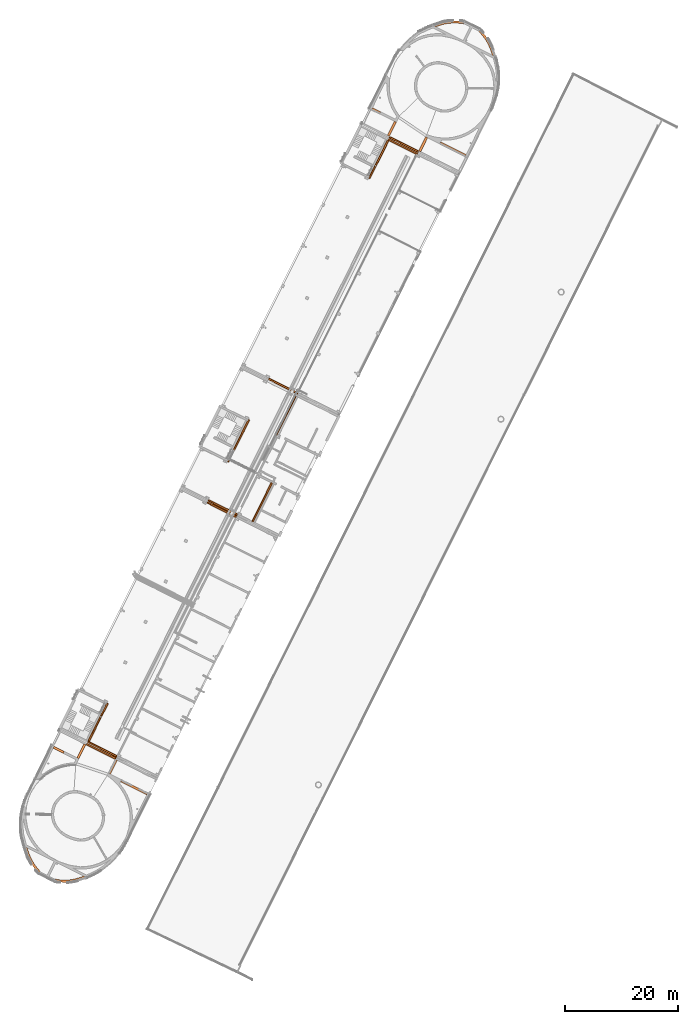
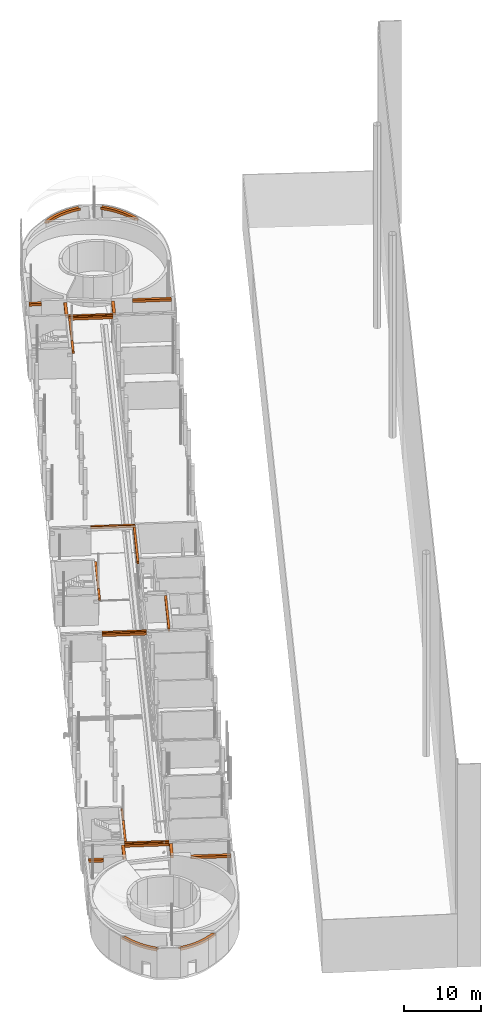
# One storey, part 90 of 91: 24 proxies.
"""IFC2X3 building model written with IfcOpenShell, lengths in metres."""

import ifcopenshell
import ifcopenshell.guid

model = None  # the IFC model being written
_history = None  # IfcOwnerHistory: only IFC2X3 demands one
_inside = {}  # id of a spatial element -> (the spatial element, [elements in it])
_under = {}  # id of a project, library or spatial element -> (it, [spatial elements below it])
_declared = {}  # id of a project -> (the project, [libraries it declares])
_typed = {}  # id of a type object -> (the type object, [elements of that type])
_made_of = {}  # id of a material, layer set ... -> (it, [elements and type objects made of it])


def new_model(schema):
    """Start an empty IFC model of exactly this schema.

    Asked for "IFC4X3", IfcOpenShell would pick the latest addendum, in which some entities
    have other attributes; the version numbers below select the first issue.
    IFC2X3 requires an IfcOwnerHistory on every rooted entity: one is made here for all.
    """
    global model, _history
    if schema == "IFC4X3":
        model = ifcopenshell.file(schema_version=(4, 3, 0, 0))
    else:
        model = ifcopenshell.file(schema=schema)
    _inside.clear()
    _under.clear()
    _declared.clear()
    _typed.clear()
    _made_of.clear()
    _history = None
    if model.schema == "IFC2X3":
        org = make("IfcOrganization", Name="unknown")
        user = make(
            "IfcPersonAndOrganization",
            ThePerson=make("IfcPerson", FamilyName="unknown"),
            TheOrganization=org,
        )
        app = make(
            "IfcApplication",
            ApplicationDeveloper=org,
            Version="unknown",
            ApplicationFullName="unknown",
            ApplicationIdentifier="unknown",
        )
        _history = make(
            "IfcOwnerHistory",
            OwningUser=user,
            OwningApplication=app,
            ChangeAction="ADDED",
            CreationDate=0,
        )
    return model


def make(cls, **values):
    """One entity of the class cls with the attributes given. An attribute that is None is left unset."""
    return model.create_entity(
        cls, **{name: value for name, value in values.items() if value is not None}
    )


def entity(cls, *values):
    """Any entity or typed value of the class cls, its attributes in the order of the schema. None: left unset."""
    e = model.create_entity(cls)
    for i, value in enumerate(values):
        if value is not None:
            e[i] = value
    return e


def rooted(cls, **values):
    """An entity with a GlobalId (a new one), such as an element, a storey or a relation."""
    return make(cls, GlobalId=ifcopenshell.guid.new(), OwnerHistory=_history, **values)


def si_unit(unit_type, name, prefix=None):
    """IfcSIUnit, for example si_unit("LENGTHUNIT", "METRE", prefix="MILLI")."""
    return make("IfcSIUnit", UnitType=unit_type, Prefix=prefix, Name=name)


def converted_unit(unit_type, name, factor, base, dimensions=None, offset=None):
    """IfcConversionBasedUnit, such as the inch: factor (a typed value) times the base unit."""
    return make(
        "IfcConversionBasedUnit"
        if offset is None
        else "IfcConversionBasedUnitWithOffset",
        ConversionOffset=offset,
        Dimensions=None
        if dimensions is None
        else entity("IfcDimensionalExponents", *dimensions),
        UnitType=unit_type,
        Name=name,
        ConversionFactor=make(
            "IfcMeasureWithUnit", ValueComponent=factor, UnitComponent=base
        ),
    )


def derived_unit(unit_type, elements):
    """IfcDerivedUnit: a product of units, each with its exponent."""
    return make(
        "IfcDerivedUnit",
        Elements=[
            make("IfcDerivedUnitElement", Unit=unit, Exponent=power)
            for unit, power in elements
        ],
        UnitType=unit_type,
    )


def assignment(units):
    """IfcUnitAssignment: the units of a project."""
    return None if units is None else make("IfcUnitAssignment", Units=units)


def point(xyz):
    """IfcCartesianPoint."""
    return None if xyz is None else make("IfcCartesianPoint", Coordinates=xyz)


def direction(xyz):
    """IfcDirection."""
    return None if xyz is None else make("IfcDirection", DirectionRatios=xyz)


def frame(location, z_axis=None, x_axis=None):
    """IfcAxis2Placement3D, a coordinate frame: its origin and axes. An axis left out is left unset."""
    return make(
        "IfcAxis2Placement3D",
        Location=point(location),
        Axis=direction(z_axis),
        RefDirection=direction(x_axis),
    )


def frame_2d(location, x_axis=None):
    """IfcAxis2Placement2D, a coordinate frame in the plane: its origin and x axis."""
    return make(
        "IfcAxis2Placement2D", Location=point(location), RefDirection=direction(x_axis)
    )


def origin():
    """The frame at (0, 0, 0) with its axes left unset."""
    return frame((0.0, 0.0, 0.0))


def origin_2d_with_axis():
    """The frame at (0, 0) in the plane with the x axis (1, 0) written out."""
    return frame_2d((0.0, 0.0), x_axis=(1.0, 0.0))


def place(relative_to, where):
    """IfcLocalPlacement: puts the frame where relative to a parent placement (None: the world)."""
    return make(
        "IfcLocalPlacement", PlacementRelTo=relative_to, RelativePlacement=where
    )


def context(
    kind, dimensions, precision=None, world=None, true_north=None, identifier=None
):
    """IfcGeometricRepresentationContext, for example the 3D "Model" context."""
    return make(
        "IfcGeometricRepresentationContext",
        ContextIdentifier=identifier,
        ContextType=kind,
        CoordinateSpaceDimension=dimensions,
        Precision=precision,
        WorldCoordinateSystem=world,
        TrueNorth=true_north,
    )


def subcontext(parent, identifier, kind, view, scale=None):
    """IfcGeometricRepresentationSubContext, for example "Body" below "Model"."""
    return make(
        "IfcGeometricRepresentationSubContext",
        ContextIdentifier=identifier,
        ContextType=kind,
        ParentContext=parent,
        TargetScale=scale,
        TargetView=view,
    )


def project(units=None, contexts=None):
    """IfcProject with its units and contexts."""
    return rooted(
        "IfcProject",
        Name="project",
        RepresentationContexts=contexts,
        UnitsInContext=assignment(units),
    )


def spatial(cls, under=None, at=None, **own):
    """A site, building, storey or space (cls), placed at a placement, below another one or the project."""
    s = rooted(cls, ObjectPlacement=at, **own)
    if under is not None:
        _under.setdefault(under.id(), (under, []))[1].append(s)
    return s


def polyline(points):
    """IfcPolyline through the points."""
    return make("IfcPolyline", Points=[point(p) for p in points])


def circle_curve(where, radius):
    """IfcCircle in the frame where."""
    return make("IfcCircle", Position=where, Radius=radius)


def parameter(value):
    """IfcParameterValue: where a trimmed curve begins or ends, as a parameter of its basis curve."""
    return model.create_entity("IfcParameterValue", value)


def trimmed(basis, trim1, trim2, sense, master):
    """IfcTrimmedCurve: the piece of a basis curve between two trims."""
    return make(
        "IfcTrimmedCurve",
        BasisCurve=basis,
        Trim1=trim1,
        Trim2=trim2,
        SenseAgreement=sense,
        MasterRepresentation=master,
    )


def segment(curve, same_sense, transition):
    """IfcCompositeCurveSegment."""
    return make(
        "IfcCompositeCurveSegment",
        Transition=transition,
        SameSense=same_sense,
        ParentCurve=curve,
    )


def composite_curve(segments, self_intersect=None):
    """IfcCompositeCurve: segments joined end to end."""
    return make("IfcCompositeCurve", Segments=segments, SelfIntersect=self_intersect)


def profile(cls, at=None, kind="AREA", **sizes):
    """A parametric profile (cls). Its sizes go by their IFC names, for example OverallWidth=200.0."""
    return make(cls, ProfileType=kind, Position=at, **sizes)


def rectangle(**sizes):
    """IfcRectangleProfileDef."""
    return profile("IfcRectangleProfileDef", **sizes)


def outline(outer, holes=None, kind="AREA"):
    """IfcArbitraryClosedProfileDef: a profile drawn as a closed curve; with holes, ...WithVoids."""
    if holes is None:
        return make("IfcArbitraryClosedProfileDef", ProfileType=kind, OuterCurve=outer)
    return make(
        "IfcArbitraryProfileDefWithVoids",
        ProfileType=kind,
        OuterCurve=outer,
        InnerCurves=holes,
    )


def extrude(swept, where, along, depth):
    """IfcExtrudedAreaSolid: the profile swept, set in the frame where, extruded along a direction by depth."""
    return make(
        "IfcExtrudedAreaSolid",
        SweptArea=swept,
        Position=where,
        ExtrudedDirection=direction(along),
        Depth=depth,
    )


def shape(context_of_items, identifier, shape_type, items):
    """IfcShapeRepresentation: the items that make up one representation, for example the "Body"."""
    return make(
        "IfcShapeRepresentation",
        ContextOfItems=context_of_items,
        RepresentationIdentifier=identifier,
        RepresentationType=shape_type,
        Items=items,
    )


def source(mapping_origin, context_of_items, identifier, shape_type, items):
    """IfcRepresentationMap: a shape defined once, which mapped items show again and again."""
    return make(
        "IfcRepresentationMap",
        MappingOrigin=mapping_origin,
        MappedRepresentation=shape(context_of_items, identifier, shape_type, items),
    )


def transform(
    local_origin,
    x_axis=None,
    y_axis=None,
    z_axis=None,
    scale=None,
    scale2=None,
    scale3=None,
    uniform=True,
):
    """IfcCartesianTransformationOperator3D, or its non-uniform kind. x_axis, y_axis, z_axis: its Axis1, 2, 3."""
    if uniform:
        return make(
            "IfcCartesianTransformationOperator3D",
            Axis1=direction(x_axis),
            Axis2=direction(y_axis),
            LocalOrigin=point(local_origin),
            Scale=scale,
            Axis3=direction(z_axis),
        )
    return make(
        "IfcCartesianTransformationOperator3DnonUniform",
        Axis1=direction(x_axis),
        Axis2=direction(y_axis),
        LocalOrigin=point(local_origin),
        Scale=scale,
        Axis3=direction(z_axis),
        Scale2=scale2,
        Scale3=scale3,
    )


def mapped(mapping_source, mapping_target):
    """IfcMappedItem: shows the shape of a source again, moved by a transform."""
    return make(
        "IfcMappedItem", MappingSource=mapping_source, MappingTarget=mapping_target
    )


def material(Name=None, Category=None):
    """IfcMaterial."""
    return make("IfcMaterial", Name=Name, Category=Category)


def made_of(thing, what):
    """Note that an element or type object is made of a material, layer set ...; save() writes the relation."""
    if what is not None:
        _made_of.setdefault(what.id(), (what, []))[1].append(thing)
    return thing


def element(
    cls,
    number,
    at=None,
    inside=None,
    cuts=None,
    type_object=None,
    material=None,
    context=None,
    identifier="Body",
    shape_type=None,
    held_by="IfcProductDefinitionShape",
    body=None,
    shapes=None,
    **own,
):
    """One element of the class cls, such as IfcWall. Its Tag is "e" and its number.

    at: its placement. inside: the storey or other place that contains it. cuts: it is an
    opening in that element (IfcRelVoidsElement). A single representation is given by context,
    identifier, shape_type and body (its items); several are given by shapes. held_by: the class
    of the entity that holds the representations. save() writes the other relations.
    """
    e = rooted(cls, Tag="e%d" % number, ObjectPlacement=at, **own)
    if body is not None:
        shapes = [shape(context, identifier, shape_type, body)]
    if shapes is not None:
        e.Representation = make(held_by, Representations=shapes)
    if inside is not None:
        _inside.setdefault(inside.id(), (inside, []))[1].append(e)
    if cuts is not None:
        rooted(
            "IfcRelVoidsElement", RelatingBuildingElement=cuts, RelatedOpeningElement=e
        )
    if type_object is not None:
        _typed.setdefault(type_object.id(), (type_object, []))[1].append(e)
    return made_of(e, material)


def aggregate(whole, parts):
    """IfcRelAggregates: a whole, such as a stair, and the parts it consists of."""
    return rooted("IfcRelAggregates", RelatingObject=whole, RelatedObjects=parts)


def save(model, path):
    """Write the relations noted so far, then the file.

    IfcRelAggregates (storeys below a building ...), IfcRelContainedInSpatialStructure (elements
    in a storey), IfcRelDefinesByType, IfcRelAssociatesMaterial and IfcRelDeclares: one each for
    every whole, place, type object, material and project.
    """
    for whole, parts in _under.values():
        aggregate(whole, parts)
    for where, things in _inside.values():
        rooted(
            "IfcRelContainedInSpatialStructure",
            RelatedElements=things,
            RelatingStructure=where,
        )
    for kind, things in _typed.values():
        rooted("IfcRelDefinesByType", RelatedObjects=things, RelatingType=kind)
    for what, things in _made_of.values():
        rooted("IfcRelAssociatesMaterial", RelatedObjects=things, RelatingMaterial=what)
    for by, libraries in _declared.values():
        rooted("IfcRelDeclares", RelatingContext=by, RelatedDefinitions=libraries)
    model.write(path)


model = new_model("IFC2X3")

# Units and contexts
model_context = context("Model", 3, precision=1e-05, world=origin(), true_north=direction((0.894925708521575, 0.446215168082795)))
context_of_model = context(None, 3, precision=1e-05, world=origin(), true_north=direction((0.894925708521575, 0.446215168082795)))
body_context = subcontext(model_context, "Body", "Model", "MODEL_VIEW")
ifc_project = project(units=[si_unit("LENGTHUNIT", "METRE"), si_unit("AREAUNIT", "SQUARE_METRE"), si_unit("VOLUMEUNIT", "CUBIC_METRE"), converted_unit("PLANEANGLEUNIT", "DEGREE", entity("IfcRatioMeasure", 0.0174532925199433), si_unit("PLANEANGLEUNIT", "RADIAN"), dimensions=[0, 0, 0, 0, 0, 0, 0]), si_unit("MASSUNIT", "GRAM", prefix="KILO"), si_unit("TIMEUNIT", "SECOND"), si_unit("FREQUENCYUNIT", "HERTZ"), si_unit("THERMODYNAMICTEMPERATUREUNIT", "DEGREE_CELSIUS"), derived_unit("THERMALTRANSMITTANCEUNIT", [(si_unit("MASSUNIT", "GRAM", prefix="KILO"), 1), (si_unit("THERMODYNAMICTEMPERATUREUNIT", "KELVIN"), -1), (si_unit("TIMEUNIT", "SECOND"), -3)]), derived_unit("VOLUMETRICFLOWRATEUNIT", [(si_unit("LENGTHUNIT", "METRE"), 3), (si_unit("TIMEUNIT", "SECOND"), -1)]), si_unit("ELECTRICCURRENTUNIT", "AMPERE"), si_unit("ELECTRICVOLTAGEUNIT", "VOLT"), si_unit("POWERUNIT", "WATT"), si_unit("FORCEUNIT", "NEWTON", prefix="KILO"), si_unit("ILLUMINANCEUNIT", "LUX"), si_unit("LUMINOUSFLUXUNIT", "LUMEN"), si_unit("LUMINOUSINTENSITYUNIT", "CANDELA"), si_unit("PRESSUREUNIT", "PASCAL")], contexts=[model_context, context_of_model])

# Site, building, storey
site_placement = place(None, frame((218.228324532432, 584.720189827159, 0.0), z_axis=(0.0, 0.0, 1.0), x_axis=(0.446215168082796, 0.894925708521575, 0.0)))
site = spatial("IfcSite", under=ifc_project, at=site_placement, Name="Default", CompositionType="ELEMENT")
building_placement = place(site_placement, origin())
building = spatial("IfcBuilding", under=site, at=building_placement, CompositionType="ELEMENT")
storey_placement = place(building_placement, origin())
storey = spatial("IfcBuildingStorey", under=building, at=storey_placement, Name="0 - Piano Terra", CompositionType="ELEMENT", Elevation=0.0)

# Proxies
ifc_material = material(Name="Calcestruzzo, gettato in opera")
shared_shape_1 = source(origin(), body_context, "Body", "SweptSolid", [
    extrude(rectangle(XDim=7.5999999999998, YDim=0.299999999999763, at=frame_2d((0.0, -5.41233724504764e-16), x_axis=(1.0, 0.0))), frame((3.7999999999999, 0.149999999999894, 0.0), z_axis=(0.0, 0.0, 1.0), x_axis=(-1.0, 0.0, 0.0)), (0.0, 0.0, 1.0), 0.4),
])
proxy_1_placement = place(storey_placement, frame((-12.4843716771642, -8.10107899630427, 3.89)))
element("IfcBuildingElementProxy", 1, at=proxy_1_placement, inside=storey, material=ifc_material, Name="Mensola C.A.24:Mensola C.A.", ObjectType="Mensola C.A.", CompositionType="ELEMENT", context=body_context, shape_type="MappedRepresentation", body=[
    mapped(shared_shape_1, transform((0.0, 0.0, 0.0), scale=1.0)),
])
shared_shape_2 = source(origin(), body_context, "Body", "SweptSolid", [
    extrude(rectangle(XDim=7.77999999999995, YDim=0.3, at=origin_2d_with_axis()), frame((3.88999999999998, 0.15, 0.0)), (0.0, 0.0, 1.0), 0.4),
])
proxy_2_placement = place(storey_placement, frame((3.01421497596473, -5.00107899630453, 3.89)))
element("IfcBuildingElementProxy", 2, at=proxy_2_placement, inside=storey, material=ifc_material, Name="Mensola allungata:Mensola allungata", ObjectType="Mensola allungata", CompositionType="ELEMENT", context=body_context, shape_type="MappedRepresentation", body=[
    mapped(shared_shape_2, transform((0.0, 0.0, 0.0), scale=1.0)),
])
shared_shape_3 = source(origin(), body_context, "Body", "SweptSolid", [
    extrude(outline(polyline([(-4.15000000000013, -0.15), (4.15000000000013, -0.15), (4.15000000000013, 0.15), (-4.15000000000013, 0.15), (-4.15000000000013, -0.15)]), holes=[composite_curve([segment(trimmed(circle_curve(frame_2d((-1.91000000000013, 0.0), x_axis=(1.0, 0.0)), 0.085), [parameter(180.0)], [parameter(0.0)], True, "PARAMETER"), False, "CONTINUOUS"), segment(trimmed(circle_curve(frame_2d((-1.91000000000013, 0.0), x_axis=(1.0, 0.0)), 0.085), [parameter(3.56222124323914e-13)], [parameter(180.0)], True, "PARAMETER"), False, "CONTINUOUS")], self_intersect=False)]), frame((4.15000000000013, 0.15, 0.0)), (0.0, 0.0, 1.0), 0.4),
])
proxy_3_placement = place(storey_placement, frame((-4.98578502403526, 0.498921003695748, 3.89)))
element("IfcBuildingElementProxy", 3, at=proxy_3_placement, inside=storey, material=ifc_material, Name="Mensola allungata1:Mensola allungata", ObjectType="Mensola allungata", CompositionType="ELEMENT", context=body_context, shape_type="MappedRepresentation", body=[
    mapped(shared_shape_3, transform((0.0, 0.0, 0.0), scale=1.0)),
])
shared_shape_4 = source(origin(), body_context, "Body", "SweptSolid", [
    extrude(rectangle(XDim=0.300000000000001, YDim=5.80000000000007, at=frame_2d((0.0, -6.66133814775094e-16), x_axis=(1.0, 0.0))), frame((0.150000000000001, 2.90000000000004, 0.0)), (0.0, 0.0, 1.0), 0.4),
])
proxy_4_placement = place(storey_placement, frame((-60.9594493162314, -5.00107899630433, 3.89)))
element("IfcBuildingElementProxy", 4, at=proxy_4_placement, inside=storey, material=ifc_material, Name="Trave setto:Trave setto", ObjectType="Trave setto", CompositionType="ELEMENT", context=body_context, shape_type="MappedRepresentation", body=[
    mapped(shared_shape_4, transform((0.0, 0.0, 0.0), scale=1.0)),
])
shared_shape_5 = source(origin(), body_context, "Body", "SweptSolid", [
    extrude(rectangle(XDim=0.300000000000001, YDim=5.80000000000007, at=frame_2d((0.0, -6.66133814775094e-16), x_axis=(1.0, 0.0))), frame((0.150000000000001, 2.90000000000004, 0.0)), (0.0, 0.0, 1.0), 0.4),
])
proxy_5_placement = place(storey_placement, frame((-60.5294493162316, -5.00107899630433, 3.89)))
element("IfcBuildingElementProxy", 5, at=proxy_5_placement, inside=storey, material=ifc_material, Name="Trave setto1:Trave setto", ObjectType="Trave setto", CompositionType="ELEMENT", context=body_context, shape_type="MappedRepresentation", body=[
    mapped(shared_shape_5, transform((0.0, 0.0, 0.0), scale=1.0)),
])
shared_shape_6 = source(origin(), body_context, "Body", "SweptSolid", [
    extrude(rectangle(XDim=0.300000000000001, YDim=5.80000000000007, at=frame_2d((0.0, -6.66133814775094e-16), x_axis=(1.0, 0.0))), frame((0.150000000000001, 2.90000000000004, 0.0)), (0.0, 0.0, 1.0), 0.4),
])
proxy_6_placement = place(storey_placement, frame((-13.1843716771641, -5.00107899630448, 3.89)))
element("IfcBuildingElementProxy", 6, at=proxy_6_placement, inside=storey, material=ifc_material, Name="Trave setto2:Trave setto", ObjectType="Trave setto", CompositionType="ELEMENT", context=body_context, shape_type="MappedRepresentation", body=[
    mapped(shared_shape_6, transform((0.0, 0.0, 0.0), scale=1.0)),
])
shared_shape_7 = source(origin(), body_context, "Body", "SweptSolid", [
    extrude(rectangle(XDim=0.300000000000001, YDim=5.80000000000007, at=frame_2d((0.0, -6.66133814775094e-16), x_axis=(1.0, 0.0))), frame((0.150000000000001, 2.90000000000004, 0.0)), (0.0, 0.0, 1.0), 0.4),
])
proxy_7_placement = place(storey_placement, frame((-12.7843716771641, -5.00107899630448, 3.89)))
element("IfcBuildingElementProxy", 7, at=proxy_7_placement, inside=storey, material=ifc_material, Name="Trave setto3:Trave setto", ObjectType="Trave setto", CompositionType="ELEMENT", context=body_context, shape_type="MappedRepresentation", body=[
    mapped(shared_shape_7, transform((0.0, 0.0, 0.0), scale=1.0)),
])
shared_shape_8 = source(origin(), body_context, "Body", "SweptSolid", [
    extrude(rectangle(XDim=0.300000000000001, YDim=5.80000000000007, at=frame_2d((0.0, -6.66133814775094e-16), x_axis=(1.0, 0.0))), frame((0.150000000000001, 2.90000000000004, 0.0)), (0.0, 0.0, 1.0), 0.4),
])
proxy_8_placement = place(storey_placement, frame((11.1942149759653, -5.00107899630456, 3.89)))
element("IfcBuildingElementProxy", 8, at=proxy_8_placement, inside=storey, material=ifc_material, Name="Trave setto5:Trave setto", ObjectType="Trave setto", CompositionType="ELEMENT", context=body_context, shape_type="MappedRepresentation", body=[
    mapped(shared_shape_8, transform((0.0, 0.0, 0.0), scale=1.0)),
])
shared_shape_9 = source(origin(), body_context, "Body", "SweptSolid", [
    extrude(rectangle(XDim=0.300000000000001, YDim=5.80000000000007, at=frame_2d((0.0, -6.66133814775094e-16), x_axis=(1.0, 0.0))), frame((0.150000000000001, 2.90000000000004, 0.0)), (0.0, 0.0, 1.0), 0.4),
])
proxy_9_placement = place(storey_placement, frame((58.9659369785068, -5.00107899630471, 3.89)))
element("IfcBuildingElementProxy", 9, at=proxy_9_placement, inside=storey, material=ifc_material, Name="Trave setto6:Trave setto", ObjectType="Trave setto", CompositionType="ELEMENT", context=body_context, shape_type="MappedRepresentation", body=[
    mapped(shared_shape_9, transform((0.0, 0.0, 0.0), scale=1.0)),
])
shared_shape_10 = source(origin(), body_context, "Body", "SweptSolid", [
    extrude(rectangle(XDim=0.300000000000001, YDim=5.80000000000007, at=frame_2d((0.0399999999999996, 0.955833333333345), x_axis=(1.0, 0.0))), frame((0.110000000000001, 1.94416666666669, 0.0)), (0.0, 0.0, 1.0), 0.4),
])
proxy_10_placement = place(storey_placement, frame((58.5359369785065, -5.00107899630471, 3.89)))
element("IfcBuildingElementProxy", 10, at=proxy_10_placement, inside=storey, material=ifc_material, Name="Trave setto7:Trave setto", ObjectType="Trave setto", CompositionType="ELEMENT", context=body_context, shape_type="MappedRepresentation", body=[
    mapped(shared_shape_10, transform((0.0, 0.0, 0.0), scale=1.0)),
])
shared_shape_11 = source(origin(), body_context, "Body", "SweptSolid", [
    extrude(outline(polyline([(-3.76499999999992, -0.15), (3.76499999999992, -0.15), (3.76499999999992, 0.15), (-3.76499999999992, 0.15), (-3.76499999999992, -0.15)]), holes=[composite_curve([segment(trimmed(circle_curve(frame_2d((1.07499999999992, 0.0), x_axis=(1.0, 0.0)), 0.085), [parameter(180.0)], [parameter(0.0)], True, "PARAMETER"), False, "CONTINUOUS"), segment(trimmed(circle_curve(frame_2d((1.07499999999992, 0.0), x_axis=(1.0, 0.0)), 0.085), [parameter(3.56222124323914e-13)], [parameter(180.0)], True, "PARAMETER"), False, "CONTINUOUS")], self_intersect=False)]), frame((3.76499999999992, 0.15, 0.0)), (0.0, 0.0, 1.0), 0.4),
])
proxy_11_placement = place(storey_placement, frame((-60.2294493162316, 0.498921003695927, 3.89)))
element("IfcBuildingElementProxy", 11, at=proxy_11_placement, inside=storey, material=ifc_material, Name="Mensola allungata2:Mensola allungata", ObjectType="Mensola allungata", CompositionType="ELEMENT", context=body_context, shape_type="MappedRepresentation", body=[
    mapped(shared_shape_11, transform((0.0, 0.0, 0.0), scale=1.0)),
])
shared_shape_12 = source(origin(), body_context, "Body", "SweptSolid", [
    extrude(outline(polyline([(-3.75999999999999, -0.15), (3.75999999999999, -0.15), (3.75999999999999, 0.15), (-3.75999999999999, 0.15), (-3.75999999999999, -0.15)]), holes=[composite_curve([segment(trimmed(circle_curve(frame_2d((-1.26999999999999, 0.0), x_axis=(1.0, 0.0)), 0.085), [parameter(180.0)], [parameter(0.0)], True, "PARAMETER"), False, "CONTINUOUS"), segment(trimmed(circle_curve(frame_2d((-1.26999999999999, 0.0), x_axis=(1.0, 0.0)), 0.085), [parameter(3.56222124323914e-13)], [parameter(180.0)], True, "PARAMETER"), False, "CONTINUOUS")], self_intersect=False)]), frame((3.75999999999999, 0.15, 0.0)), (0.0, 0.0, 1.0), 0.4),
])
proxy_12_placement = place(storey_placement, frame((51.0059369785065, 0.498921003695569, 3.89)))
element("IfcBuildingElementProxy", 12, at=proxy_12_placement, inside=storey, material=ifc_material, Name="Mensola allungata3:Mensola allungata", ObjectType="Mensola allungata", CompositionType="ELEMENT", context=body_context, shape_type="MappedRepresentation", body=[
    mapped(shared_shape_12, transform((0.0, 0.0, 0.0), scale=1.0)),
])
shared_shape_13 = source(origin(), body_context, "Body", "SweptSolid", [
    extrude(outline(composite_curve([segment(trimmed(circle_curve(frame_2d((21.6741401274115, -19.3275145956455), x_axis=(1.0, 0.0)), 29.6228237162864), [parameter(132.845537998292)], [parameter(136.059357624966)], True, "PARAMETER"), True, "CONTINUOUS"), segment(trimmed(circle_curve(frame_2d((7.27174286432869, -5.02614607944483), x_axis=(1.0, 0.0)), 9.33329107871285), [parameter(137.924812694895)], [parameter(161.516654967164)], True, "PARAMETER"), True, "CONTINUOUS"), segment(polyline([(-1.58009833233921, -2.06722232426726), (-1.23009833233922, -2.06722232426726)]), True, "CONTINUOUS"), segment(polyline([(-1.23009833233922, -2.06722232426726), (-1.23009833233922, -2.28344927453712)]), True, "CONTINUOUS"), segment(trimmed(circle_curve(frame_2d((7.27174286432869, -5.02614607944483), x_axis=(1.0, 0.0)), 8.93329107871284), [parameter(137.966265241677)], [parameter(162.120281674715)], True, "PARAMETER"), False, "CONTINUOUS"), segment(trimmed(circle_curve(frame_2d((21.6741401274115, -19.3275145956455), x_axis=(1.0, 0.0)), 29.2228237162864), [parameter(133.577283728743)], [parameter(136.046492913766)], True, "PARAMETER"), False, "CONTINUOUS"), segment(polyline([(1.52990166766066, 1.84282037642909), (1.52990166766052, 2.39163229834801)]), True, "CONTINUOUS")], self_intersect=False)), frame((1.5816936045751, 2.28504454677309, 0.0)), (0.0, 0.0, 1.0), 0.4),
])
proxy_13_placement = place(storey_placement, frame((-85.0515750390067, -2.18890121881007, 4.13)))
element("IfcBuildingElementProxy", 13, at=proxy_13_placement, inside=storey, material=ifc_material, Name="Telaio strutturale 1:Telaio strutturale 1", ObjectType="Telaio strutturale 1", CompositionType="ELEMENT", context=body_context, shape_type="MappedRepresentation", body=[
    mapped(shared_shape_13, transform((0.0, 0.0, 0.0), scale=1.0)),
])
shared_shape_14 = source(origin(), body_context, "Body", "SweptSolid", [
    extrude(outline(composite_curve([segment(polyline([(-2.04423190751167, -0.53634682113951), (-2.04166016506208, -0.53634682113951)]), True, "CONTINUOUS"), segment(polyline([(-2.04166016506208, -0.53634682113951), (-2.03908726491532, -0.536345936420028)]), True, "CONTINUOUS"), segment(polyline([(-2.03908726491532, -0.536345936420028), (-1.7369511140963, -0.530545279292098)]), True, "CONTINUOUS"), segment(polyline([(-1.7369511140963, -0.530545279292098), (-1.43524087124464, -0.513439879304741)]), True, "CONTINUOUS"), segment(polyline([(-1.43524087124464, -0.513439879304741), (-1.13438227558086, -0.485053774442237)]), True, "CONTINUOUS"), segment(polyline([(-1.13438227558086, -0.485053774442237), (-0.834796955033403, -0.445426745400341)]), True, "CONTINUOUS"), segment(polyline([(-0.834796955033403, -0.445426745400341), (-0.536904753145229, -0.394614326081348)]), True, "CONTINUOUS"), segment(polyline([(-0.536904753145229, -0.394614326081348), (-0.241123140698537, -0.332687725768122)]), True, "CONTINUOUS"), segment(polyline([(-0.241123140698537, -0.332687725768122), (0.0521333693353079, -0.259733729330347)]), True, "CONTINUOUS"), segment(polyline([(0.0521333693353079, -0.259733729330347), (0.342453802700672, -0.175854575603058)]), True, "CONTINUOUS"), segment(polyline([(0.342453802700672, -0.175854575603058), (0.629431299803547, -0.0811678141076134)]), True, "CONTINUOUS"), segment(polyline([(0.629431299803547, -0.0811678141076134), (0.912663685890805, 0.0241938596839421)]), True, "CONTINUOUS"), segment(polyline([(0.912663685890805, 0.0241938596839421), (1.19175403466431, 0.140082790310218)]), True, "CONTINUOUS"), segment(polyline([(1.19175403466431, 0.140082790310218), (1.46631122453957, 0.26633656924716)]), True, "CONTINUOUS"), segment(polyline([(1.46631122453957, 0.26633656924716), (1.73595048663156, 0.402778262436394)]), True, "CONTINUOUS"), segment(polyline([(1.73595048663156, 0.402778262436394), (2.00029394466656, 0.549216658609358)]), True, "CONTINUOUS"), segment(trimmed(circle_curve(frame_2d((-6.41751495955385, 15.3223976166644), x_axis=(0.233464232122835, 0.972365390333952)), 17.0031286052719), [parameter(223.175749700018)], [parameter(228.396997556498)], True, "PARAMETER"), True, "CONTINUOUS"), segment(polyline([(3.30975352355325, 1.37655127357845), (2.78457069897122, 1.50264729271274)]), True, "CONTINUOUS"), segment(trimmed(circle_curve(frame_2d((-6.41751495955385, 15.3223976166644), x_axis=(0.233464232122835, 0.972365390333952)), 16.6031286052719), [parameter(223.17110471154)], [parameter(227.159361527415)], True, "PARAMETER"), False, "CONTINUOUS"), segment(trimmed(circle_curve(frame_2d((-2.04294603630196, 7.53606731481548), x_axis=(0.233464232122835, 0.972365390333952)), 7.6724142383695), [parameter(192.182435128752)], [parameter(223.568685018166)], True, "PARAMETER"), False, "CONTINUOUS"), segment(polyline([(-2.21951297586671, -0.134314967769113), (-1.96251942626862, -0.196018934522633)]), True, "CONTINUOUS"), segment(polyline([(-1.96251942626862, -0.196018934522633), (-2.04423190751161, -0.536346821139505)]), True, "CONTINUOUS")], self_intersect=False)), frame((1.00037539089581, 2.89850956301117, 0.0), z_axis=(0.0, 0.0, 1.0), x_axis=(0.233464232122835, -0.97236539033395, 0.0)), (0.0, 0.0, 1.0), 0.4),
])
proxy_14_placement = place(storey_placement, frame((-85.0515750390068, -9.7621111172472, 4.13)))
element("IfcBuildingElementProxy", 14, at=proxy_14_placement, inside=storey, material=ifc_material, Name="Trave curva:Trave curva", ObjectType="Trave curva", CompositionType="ELEMENT", context=body_context, shape_type="MappedRepresentation", body=[
    mapped(shared_shape_14, transform((0.0, 0.0, 0.0), scale=1.0)),
])
shared_shape_15 = source(origin(), body_context, "Body", "SweptSolid", [
    extrude(rectangle(XDim=0.4, YDim=2.76999999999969, at=frame_2d((0.0, -4.32986979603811e-15), x_axis=(1.0, 0.0))), frame((1.38499999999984, 0.200000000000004, 0.0), z_axis=(0.0, 0.0, 1.0), x_axis=(0.0, 1.0, 0.0)), (0.0, 0.0, 1.0), 0.4),
])
proxy_15_placement = place(storey_placement, frame((-63.7294493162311, 0.798921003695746, 3.89)))
element("IfcBuildingElementProxy", 15, at=proxy_15_placement, inside=storey, material=ifc_material, Name="Telaio strutturale 4:Telaio strutturale 4", ObjectType="Telaio strutturale 4", CompositionType="ELEMENT", context=body_context, shape_type="MappedRepresentation", body=[
    mapped(shared_shape_15, transform((0.0, 0.0, 0.0), scale=1.0)),
])
shared_shape_16 = source(origin(), body_context, "Body", "SweptSolid", [
    extrude(rectangle(XDim=0.4, YDim=2.76999999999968, at=origin_2d_with_axis()), frame((1.38499999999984, 0.200000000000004, 0.0), z_axis=(0.0, 0.0, 1.0), x_axis=(0.0, -1.0, 0.0)), (0.0, 0.0, 1.0), 0.4),
])
proxy_16_placement = place(storey_placement, frame((-63.7294493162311, -5.40107899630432, 3.89)))
element("IfcBuildingElementProxy", 16, at=proxy_16_placement, inside=storey, material=ifc_material, Name="Telaio strutturale 5:Telaio strutturale 5", ObjectType="Telaio strutturale 5", CompositionType="ELEMENT", context=body_context, shape_type="MappedRepresentation", body=[
    mapped(shared_shape_16, transform((0.0, 0.0, 0.0), scale=1.0)),
])
shared_shape_17 = source(origin(), body_context, "Body", "SweptSolid", [
    extrude(outline(composite_curve([segment(polyline([(0.113642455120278, -0.417005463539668), (0.668929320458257, -0.417005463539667)]), True, "CONTINUOUS"), segment(polyline([(0.668929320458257, -0.417005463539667), (1.22410298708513, -0.405793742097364)]), True, "CONTINUOUS"), segment(polyline([(1.22410298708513, -0.405793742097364), (1.77893707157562, -0.383374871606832)]), True, "CONTINUOUS"), segment(polyline([(1.77893707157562, -0.383374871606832), (1.77903174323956, -0.383370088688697)]), True, "CONTINUOUS"), segment(polyline([(1.77903174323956, -0.383370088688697), (1.77912640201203, -0.383365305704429)]), True, "CONTINUOUS"), segment(polyline([(1.77912640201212, -0.383365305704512), (1.77892653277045, -0.383165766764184)]), True, "CONTINUOUS"), segment(polyline([(1.77892653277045, -0.383165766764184), (1.39494185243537, 0.000184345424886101)]), True, "CONTINUOUS"), segment(trimmed(circle_curve(frame_2d((0.391285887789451, 27.0820789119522), x_axis=(-0.706521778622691, -0.70769130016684)), 27.1004859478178), [parameter(44.4081458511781)], [parameter(47.0750300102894)], True, "PARAMETER"), False, "CONTINUOUS"), segment(trimmed(circle_curve(frame_2d((1.00110039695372, 9.42667667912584), x_axis=(-0.706521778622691, -0.70769130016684)), 9.48360560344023), [parameter(16.0751785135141)], [parameter(39.7051865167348)], True, "PARAMETER"), False, "CONTINUOUS"), segment(polyline([(-3.57888954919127, 1.12231232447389), (-3.41332224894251, 0.957018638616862)]), True, "CONTINUOUS"), segment(polyline([(-3.41332224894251, 0.957018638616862), (-3.65918510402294, 0.710748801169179)]), True, "CONTINUOUS"), segment(trimmed(circle_curve(frame_2d((1.00110039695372, 9.42667667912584), x_axis=(-0.706521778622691, -0.70769130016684)), 9.88360560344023), [parameter(16.8198211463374)], [parameter(39.8010393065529)], True, "PARAMETER"), True, "CONTINUOUS")], self_intersect=False)), frame((0.987282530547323, 3.327282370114, 0.0), z_axis=(0.0, 0.0, 1.0), x_axis=(-0.706521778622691, 0.707691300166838, 0.0)), (0.0, 0.0, 1.0), 0.4),
])
proxy_17_placement = place(storey_placement, frame((80.2474572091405, -2.24662839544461, 4.13)))
element("IfcBuildingElementProxy", 17, at=proxy_17_placement, inside=storey, material=ifc_material, Name="Telaio strutturale 11:Telaio strutturale 11", ObjectType="Telaio strutturale 11", CompositionType="ELEMENT", context=body_context, shape_type="MappedRepresentation", body=[
    mapped(shared_shape_17, transform((0.0, 0.0, 0.0), scale=1.0)),
])
shared_shape_18 = source(origin(), body_context, "Body", "SweptSolid", [
    extrude(outline(composite_curve([segment(trimmed(circle_curve(frame_2d((-6.97788046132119, 4.83811708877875), x_axis=(1.0, 0.0)), 9.01613750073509), [parameter(315.389318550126)], [parameter(343.07982372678)], True, "PARAMETER"), True, "CONTINUOUS"), segment(polyline([(1.64795887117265, 2.21406845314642), (1.29996838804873, 2.21406845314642)]), True, "CONTINUOUS"), segment(polyline([(1.29996838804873, 2.21406845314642), (1.29996838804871, 2.44750129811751)]), True, "CONTINUOUS"), segment(trimmed(circle_curve(frame_2d((-6.97788046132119, 4.83811708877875), x_axis=(1.0, 0.0)), 8.61613750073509), [parameter(315.347649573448)], [parameter(343.891454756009)], True, "PARAMETER"), False, "CONTINUOUS"), segment(trimmed(circle_curve(frame_2d((-13.1473589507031, 10.1652479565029), x_axis=(1.0, 0.0)), 16.7578390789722), [parameter(314.411877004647)], [parameter(317.215781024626)], True, "PARAMETER"), False, "CONTINUOUS"), segment(polyline([(-1.42003161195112, -1.80533950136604), (-1.42003161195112, -2.35917759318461)]), True, "CONTINUOUS"), segment(trimmed(circle_curve(frame_2d((-13.1473589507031, 10.1652479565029), x_axis=(1.0, 0.0)), 17.1578390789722), [parameter(313.117499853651)], [parameter(317.194121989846)], True, "PARAMETER"), True, "CONTINUOUS")], self_intersect=False)), frame((1.42162688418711, 2.3607728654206, 0.0)), (0.0, 0.0, 1.0), 0.4),
])
proxy_18_placement = place(storey_placement, frame((80.2474572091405, -9.64592031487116, 4.13)))
element("IfcBuildingElementProxy", 18, at=proxy_18_placement, inside=storey, material=ifc_material, Name="Telaio strutturale 12:Telaio strutturale 12", ObjectType="Telaio strutturale 12", CompositionType="ELEMENT", context=body_context, shape_type="MappedRepresentation", body=[
    mapped(shared_shape_18, transform((0.0, 0.0, 0.0), scale=1.0)),
])
shared_shape_19 = source(origin(), body_context, "Body", "SweptSolid", [
    extrude(rectangle(XDim=0.4, YDim=2.77000000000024, at=origin_2d_with_axis()), frame((1.38500000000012, 0.200000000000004, 0.0), z_axis=(0.0, 0.0, 1.0), x_axis=(0.0, 1.0, 0.0)), (0.0, 0.0, 1.0), 0.4),
])
proxy_19_placement = place(storey_placement, frame((59.2659369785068, 0.798921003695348, 3.89)))
element("IfcBuildingElementProxy", 19, at=proxy_19_placement, inside=storey, material=ifc_material, Name="Telaio strutturale 16:Telaio strutturale 16", ObjectType="Telaio strutturale 16", CompositionType="ELEMENT", context=body_context, shape_type="MappedRepresentation", body=[
    mapped(shared_shape_19, transform((0.0, 0.0, 0.0), scale=1.0)),
])
shared_shape_20 = source(origin(), body_context, "Body", "SweptSolid", [
    extrude(rectangle(XDim=2.77000000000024, YDim=0.4, at=frame_2d((0.0, -5.41233724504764e-16), x_axis=(1.0, 0.0))), frame((1.38500000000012, 0.200000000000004, 0.0), z_axis=(0.0, 0.0, 1.0), x_axis=(-1.0, 0.0, 0.0)), (0.0, 0.0, 1.0), 0.4),
])
proxy_20_placement = place(storey_placement, frame((59.2659369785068, -5.40107899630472, 3.89)))
element("IfcBuildingElementProxy", 20, at=proxy_20_placement, inside=storey, material=ifc_material, Name="Telaio strutturale 17:Telaio strutturale 17", ObjectType="Telaio strutturale 17", CompositionType="ELEMENT", context=body_context, shape_type="MappedRepresentation", body=[
    mapped(shared_shape_20, transform((0.0, 0.0, 0.0), scale=1.0)),
])
shared_shape_21 = source(origin(), body_context, "Body", "SweptSolid", [
    extrude(outline(polyline([(-0.200000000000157, -0.640145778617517), (0.0, -0.640145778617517), (0.199999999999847, -0.640145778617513), (0.199999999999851, 0.960583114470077), (-0.200000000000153, 0.959854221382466), (-0.200000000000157, -0.640145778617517)])), frame((0.200000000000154, 0.640145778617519, 0.0)), (0.0, 0.0, 1.0), 0.4),
])
proxy_21_placement = place(storey_placement, frame((62.0359369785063, 4.10717448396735, 3.89)))
element("IfcBuildingElementProxy", 21, at=proxy_21_placement, inside=storey, material=ifc_material, Name="Telaio strutturale 3:Telaio strutturale 16", ObjectType="Telaio strutturale 16", CompositionType="ELEMENT", context=body_context, shape_type="MappedRepresentation", body=[
    mapped(shared_shape_21, transform((0.0, 0.0, 0.0), scale=1.0)),
])
shared_shape_22 = source(origin(), body_context, "Body", "SweptSolid", [
    extrude(rectangle(XDim=5.01999499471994, YDim=0.4, at=frame_2d((0.0, 5.41233724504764e-16), x_axis=(1.0, 0.0))), frame((2.50999749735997, 0.200000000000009, 0.0), z_axis=(0.0, 0.0, 1.0), x_axis=(-1.0, 0.0, 0.0)), (0.0, 0.0, 1.0), 0.4),
])
proxy_22_placement = place(storey_placement, frame((62.4359334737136, -12.8010840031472, 3.89), z_axis=(0.0, 0.0, 1.0), x_axis=(2.50342388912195e-05, 1.0, 0.0)))
element("IfcBuildingElementProxy", 22, at=proxy_22_placement, inside=storey, material=ifc_material, Name="Telaio strutturale 6:Telaio strutturale 17", ObjectType="Telaio strutturale 17", CompositionType="ELEMENT", context=body_context, shape_type="MappedRepresentation", body=[
    mapped(shared_shape_22, transform((0.0, 0.0, 0.0), scale=1.0)),
])
shared_shape_23 = source(origin(), body_context, "Body", "SweptSolid", [
    extrude(outline(polyline([(-0.205170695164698, -0.999469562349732), (0.194834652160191, -0.999469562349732), (0.205165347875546, 0.998435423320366), (-0.194829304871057, 1.0005037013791), (-0.205170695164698, -0.999469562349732)])), frame((0.200000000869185, 0.999482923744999, 0.0), z_axis=(0.0, 0.0, 1.0), x_axis=(-0.999986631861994, -0.00517069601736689, 0.0)), (0.0, 0.0, 1.0), 0.4),
])
proxy_23_placement = place(storey_placement, frame((-64.1294493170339, 3.70459263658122, 3.88999999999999)))
element("IfcBuildingElementProxy", 23, at=proxy_23_placement, inside=storey, material=ifc_material, Name="Telaio strutturale 10:Telaio strutturale 4", ObjectType="Telaio strutturale 4", CompositionType="ELEMENT", context=body_context, shape_type="MappedRepresentation", body=[
    mapped(shared_shape_23, transform((0.0, 0.0, 0.0), scale=1.0)),
])
shared_shape_24 = source(origin(), body_context, "Body", "SweptSolid", [
    extrude(outline(polyline([(-0.213417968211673, -2.59445100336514), (0.186587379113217, -2.59445100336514), (0.21341262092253, 2.59341686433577), (-0.186582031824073, 2.5954851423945), (-0.213417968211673, -2.59445100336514)])), frame((0.200000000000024, 2.59448568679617, 0.0), z_axis=(0.0, 0.0, 1.0), x_axis=(-0.999986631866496, -0.00517069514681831, 0.0)), (0.0, 0.0, 1.0), 0.4),
])
proxy_24_placement = place(storey_placement, frame((-64.1294493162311, -12.8010845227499, 3.88999999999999)))
element("IfcBuildingElementProxy", 24, at=proxy_24_placement, inside=storey, material=ifc_material, Name="Telaio strutturale 15:Telaio strutturale 4", ObjectType="Telaio strutturale 4", CompositionType="ELEMENT", context=body_context, shape_type="MappedRepresentation", body=[
    mapped(shared_shape_24, transform((0.0, 0.0, 0.0), scale=1.0)),
])

save(model, "model.ifc")
